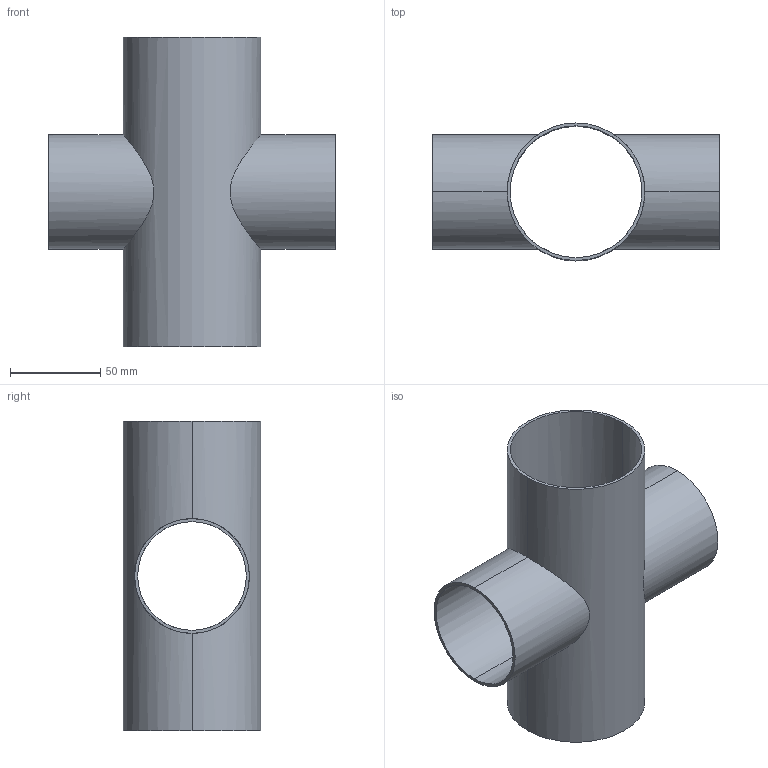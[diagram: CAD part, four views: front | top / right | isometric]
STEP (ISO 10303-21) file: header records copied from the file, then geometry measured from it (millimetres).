
FILE_DESCRIPTION (( 'STEP AP214' ), '1' );
FILE_NAME ('TE9RWWWW6L3.0x2.5-...STEP', '2016-05-22T04:38:10', ( 'eran' ), ( '' ), 'SwSTEP 2.0', 'SolidWorks 2016', '' );
FILE_SCHEMA (( 'AUTOMOTIVE_DESIGN' ));
Length unit declared in the file: millimetre
Products named in the file (1): TE9RWWWW6L3.0x2.5-..
Bounding box: 158.75 x 76.2 x 171.45 mm (x, y, z)
Volume: 87077.3 mm3; surface area: 106870.9 mm2
Topology: 1 solids, 1 shells, 16 faces, 40 edges, 24 vertices
Faces by surface type: cylinder 12, plane 4
Entity records: 1042 total; most frequent: CARTESIAN_POINT 617, DIRECTION 82, ORIENTED_EDGE 80, EDGE_CURVE 40, AXIS2_PLACEMENT_3D 33, VERTEX_POINT 24, EDGE_LOOP 20, CIRCLE 16
